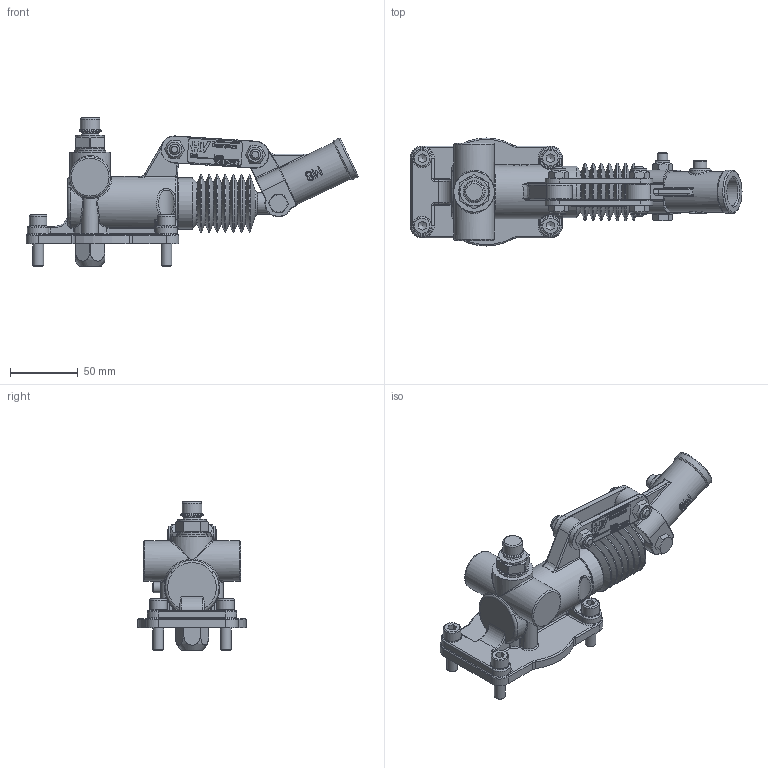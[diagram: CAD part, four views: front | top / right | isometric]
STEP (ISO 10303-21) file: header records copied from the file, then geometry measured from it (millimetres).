
FILE_DESCRIPTION((''),'2;1');
FILE_NAME('G:\HV_HYDRAULIC\AZIENDA_HV_HYDRAULIC\ARCHIVIO_DISEGNI\5_PRODOTTI_FINITI\1_POMPE_MANUALI\6065_PMSE_8\6065.0039_PMSE_8_e-s_(HV)\6065.0039.stp','2024-03-25T15:59:29',('christian.scardovi'),(''),'Autodesk Inventor 2013','Autodesk Inventor 2013','');
FILE_SCHEMA(('AUTOMOTIVE_DESIGN { 1 0 10303 214 1 1 1 1 }'));
Length unit declared in the file: millimetre
Products named in the file (1): 6065.0039
Bounding box: 245.91 x 80 x 110 mm (x, y, z)
Volume: 354677.3 mm3; surface area: 85634.2 mm2
Topology: 1 solids, 1 shells, 1281 faces, 3182 edges, 1978 vertices
Faces by surface type: plane 585, cylinder 236, bspline 211, torus 126, cone 99, sphere 24
Full cylindrical faces by diameter (mm): 5 x4, 6 x1, 6.5 x1, 8 x7, 9 x2, 9.5 x2, 10 x1, 11.05 x5, 11.6 x1, 12 x4, 13 x4, 13.5 x1, 14 x4, 14.5 x1, 14.95 x2, 16 x2, 16.5 x1, 20.5 x2, 21 x2, 22 x2, 23 x2, 30 x4, 32 x1, 38.004 x1
Entity records: 40948 total; most frequent: CARTESIAN_POINT 11548, ORIENTED_EDGE 5934, DIRECTION 5292, EDGE_CURVE 2967, VERTEX_POINT 1934, AXIS2_PLACEMENT_3D 1862, VECTOR 1568, LINE 1568
